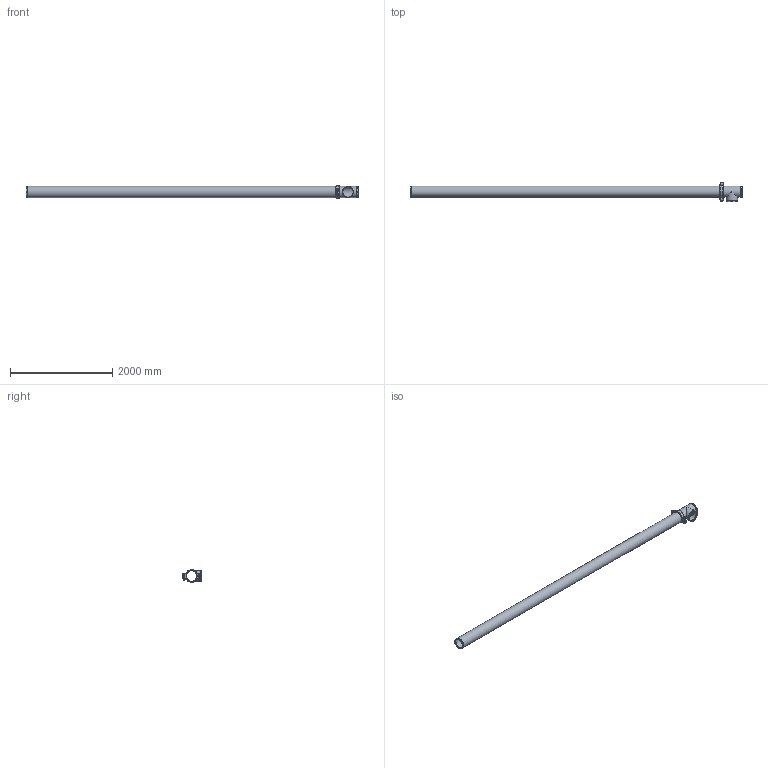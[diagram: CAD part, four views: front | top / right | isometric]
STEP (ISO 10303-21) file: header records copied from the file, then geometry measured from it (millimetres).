
FILE_DESCRIPTION(/* description */ ('VIC LONG RUN FITTING No R22 (OGS)','CAx-IF Rec.Pracs.---Representation and Presentation of Product Manufacturing Information (PMI)---4.0---2014-10-13'),/* implementation_level */ '2;1');
FILE_NAME(/* name */ 'C:\Users\Vjadhav\AppData\Roaming\Autodesk\ApplicationPlugins\Back Up\Victaulic_IPS_Long Run Fittings_No R22 (OGS)\Victaulic_IPS_Long Run Fittings_No R22 (OGS)_8 (200).stp',/* time_stamp */ '2020-10-14T10:38:03+05:00',/* author */ ('Vjadhav'),/* organization */ ('Victaulic'),/* preprocessor_version */ 'ST-DEVELOPER v17.2',/* originating_system */ 'Autodesk Inventor 2019',/* authorisation */ '');
FILE_SCHEMA (('AP242_MANAGED_MODEL_BASED_3D_ENGINEERING_MIM_LF { 1 0 10303 442 1 1 4 }'));
Length unit declared in the file: inch
Products named in the file (4): R22-08.0; 020-08.0; 177N-08.0; Pipe_R10-08.0
Assembly tree (3 placements, depth 2):
  R22-08.0
    020-08.0
    177N-08.0
    Pipe_R10-08.0
Bounding box: 6499.35 x 381.23 x 253.04 mm (x, y, z)
Volume: 36980084.8 mm3; surface area: 8930417.6 mm2
Topology: 3 solids, 3 shells, 122 faces, 331 edges, 226 vertices
Faces by surface type: plane 71, cylinder 41, cone 4, torus 4, sphere 2
Full cylindrical faces by diameter (mm): 22.225 x2, 42.85 x2, 202.717 x3, 206.375 x1, 214.401 x5, 219.075 x10
Entity records: 4315 total; most frequent: CARTESIAN_POINT 762, DIRECTION 723, ORIENTED_EDGE 670, EDGE_CURVE 335, AXIS2_PLACEMENT_3D 275, VERTEX_POINT 226, LINE 173, VECTOR 173
